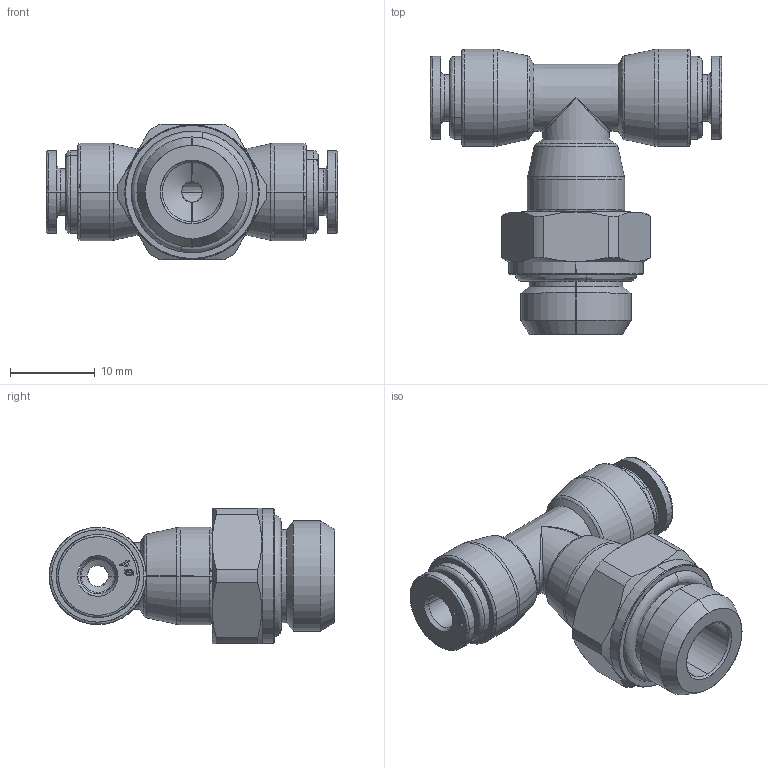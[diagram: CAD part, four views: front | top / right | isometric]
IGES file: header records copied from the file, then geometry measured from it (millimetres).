
Start section: SolidWorks IGES file using analytic representation for surfaces
Global section: file name: K:\Disegni Esecutivi\SERIE 53000\53000 Assiemi\53217\Iges\5321700005A.IGS; native system: SolidWorks 2020; preprocessor: SolidWorks 2020; author: cad06; date: 240510.104250; units: millimetre
Bounding box: 34.4 x 33.75 x 16 mm (x, y, z)
Surface area: 3567.7 mm2 (no closed solid volume)
Topology: 0 solids, 0 shells, 219 faces, 2124 edges, 2120 vertices
Faces by surface type: bspline 137, revolution 82
